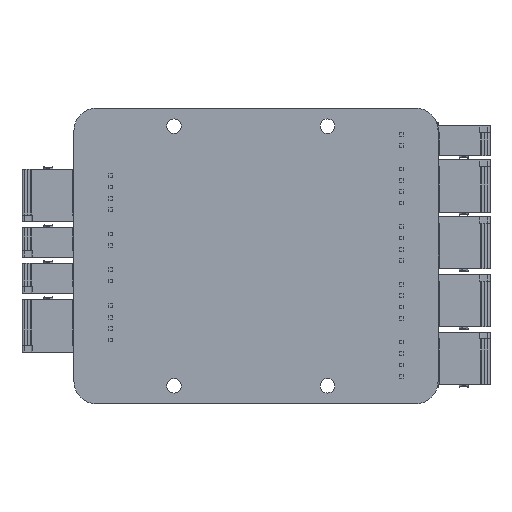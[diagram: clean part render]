
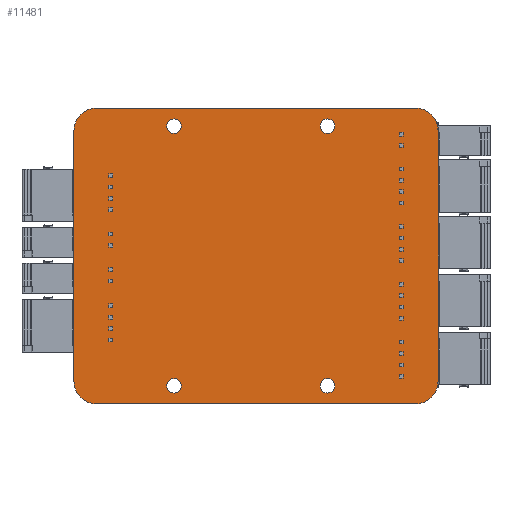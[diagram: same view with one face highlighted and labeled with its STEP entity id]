
A CAD part, front view. The second image highlights one B-rep face of the part: STEP entity #11481.
In plain terms, the highlighted planar face has unit normal (0, -1, 0).
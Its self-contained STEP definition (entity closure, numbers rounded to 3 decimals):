
#151=FACE_BOUND('',#1336,.T.);
#152=FACE_BOUND('',#1337,.T.);
#153=FACE_BOUND('',#1338,.T.);
#154=FACE_BOUND('',#1339,.T.);
#210=PLANE('',#12253);
#711=FACE_OUTER_BOUND('',#1335,.T.);
#1335=EDGE_LOOP('',(#7971,#7972,#7973,#7974,#7975,#7976,#7977,#7978));
#1336=EDGE_LOOP('',(#7979,#7980));
#1337=EDGE_LOOP('',(#7981,#7982));
#1338=EDGE_LOOP('',(#7983,#7984));
#1339=EDGE_LOOP('',(#7985,#7986));
#2017=LINE('',#16481,#3429);
#2020=LINE('',#16487,#3432);
#2021=LINE('',#16491,#3433);
#2022=LINE('',#16495,#3434);
#3429=VECTOR('',#13212,10.);
#3432=VECTOR('',#13217,10.);
#3433=VECTOR('',#13220,10.);
#3434=VECTOR('',#13223,10.);
#4835=CIRCLE('',#12234,1.6);
#4836=CIRCLE('',#12235,1.6);
#4838=CIRCLE('',#12238,1.6);
#4839=CIRCLE('',#12239,1.6);
#4841=CIRCLE('',#12242,1.6);
#4842=CIRCLE('',#12243,1.6);
#4844=CIRCLE('',#12246,1.6);
#4845=CIRCLE('',#12247,1.6);
#4848=CIRCLE('',#12251,5.);
#4849=CIRCLE('',#12254,5.);
#4850=CIRCLE('',#12255,5.);
#4851=CIRCLE('',#12256,5.);
#5099=VERTEX_POINT('',#16439);
#5100=VERTEX_POINT('',#16440);
#5102=VERTEX_POINT('',#16447);
#5103=VERTEX_POINT('',#16448);
#5105=VERTEX_POINT('',#16455);
#5106=VERTEX_POINT('',#16456);
#5108=VERTEX_POINT('',#16463);
#5109=VERTEX_POINT('',#16464);
#5113=VERTEX_POINT('',#16474);
#5114=VERTEX_POINT('',#16476);
#5115=VERTEX_POINT('',#16480);
#5117=VERTEX_POINT('',#16486);
#5118=VERTEX_POINT('',#16488);
#5119=VERTEX_POINT('',#16490);
#5120=VERTEX_POINT('',#16492);
#5121=VERTEX_POINT('',#16494);
#6235=EDGE_CURVE('',#5099,#5100,#4835,.T.);
#6236=EDGE_CURVE('',#5100,#5099,#4836,.T.);
#6239=EDGE_CURVE('',#5102,#5103,#4838,.T.);
#6240=EDGE_CURVE('',#5103,#5102,#4839,.T.);
#6243=EDGE_CURVE('',#5105,#5106,#4841,.T.);
#6244=EDGE_CURVE('',#5106,#5105,#4842,.T.);
#6247=EDGE_CURVE('',#5108,#5109,#4844,.T.);
#6248=EDGE_CURVE('',#5109,#5108,#4845,.T.);
#6253=EDGE_CURVE('',#5113,#5114,#4848,.T.);
#6255=EDGE_CURVE('',#5114,#5115,#2017,.T.);
#6258=EDGE_CURVE('',#5117,#5113,#2020,.T.);
#6259=EDGE_CURVE('',#5118,#5117,#4849,.T.);
#6260=EDGE_CURVE('',#5119,#5118,#2021,.T.);
#6261=EDGE_CURVE('',#5120,#5119,#4850,.T.);
#6262=EDGE_CURVE('',#5121,#5120,#2022,.T.);
#6263=EDGE_CURVE('',#5115,#5121,#4851,.T.);
#7971=ORIENTED_EDGE('',*,*,#6253,.F.);
#7972=ORIENTED_EDGE('',*,*,#6258,.F.);
#7973=ORIENTED_EDGE('',*,*,#6259,.F.);
#7974=ORIENTED_EDGE('',*,*,#6260,.F.);
#7975=ORIENTED_EDGE('',*,*,#6261,.F.);
#7976=ORIENTED_EDGE('',*,*,#6262,.F.);
#7977=ORIENTED_EDGE('',*,*,#6263,.F.);
#7978=ORIENTED_EDGE('',*,*,#6255,.F.);
#7979=ORIENTED_EDGE('',*,*,#6235,.T.);
#7980=ORIENTED_EDGE('',*,*,#6236,.T.);
#7981=ORIENTED_EDGE('',*,*,#6239,.T.);
#7982=ORIENTED_EDGE('',*,*,#6240,.T.);
#7983=ORIENTED_EDGE('',*,*,#6243,.T.);
#7984=ORIENTED_EDGE('',*,*,#6244,.T.);
#7985=ORIENTED_EDGE('',*,*,#6247,.T.);
#7986=ORIENTED_EDGE('',*,*,#6248,.T.);
#11481=ADVANCED_FACE('',(#711,#151,#152,#153,#154),#210,.T.);
#12234=AXIS2_PLACEMENT_3D('',#16441,#13168,#13169);
#12235=AXIS2_PLACEMENT_3D('',#16442,#13170,#13171);
#12238=AXIS2_PLACEMENT_3D('',#16449,#13177,#13178);
#12239=AXIS2_PLACEMENT_3D('',#16450,#13179,#13180);
#12242=AXIS2_PLACEMENT_3D('',#16457,#13186,#13187);
#12243=AXIS2_PLACEMENT_3D('',#16458,#13188,#13189);
#12246=AXIS2_PLACEMENT_3D('',#16465,#13195,#13196);
#12247=AXIS2_PLACEMENT_3D('',#16466,#13197,#13198);
#12251=AXIS2_PLACEMENT_3D('',#16477,#13207,#13208);
#12253=AXIS2_PLACEMENT_3D('',#16485,#13215,#13216);
#12254=AXIS2_PLACEMENT_3D('',#16489,#13218,#13219);
#12255=AXIS2_PLACEMENT_3D('',#16493,#13221,#13222);
#12256=AXIS2_PLACEMENT_3D('',#16496,#13224,#13225);
#13168=DIRECTION('center_axis',(0.,1.,0.));
#13169=DIRECTION('ref_axis',(1.,0.,0.));
#13170=DIRECTION('center_axis',(0.,1.,0.));
#13171=DIRECTION('ref_axis',(1.,0.,0.));
#13177=DIRECTION('center_axis',(0.,1.,0.));
#13178=DIRECTION('ref_axis',(1.,0.,0.));
#13179=DIRECTION('center_axis',(0.,1.,0.));
#13180=DIRECTION('ref_axis',(1.,0.,0.));
#13186=DIRECTION('center_axis',(0.,1.,0.));
#13187=DIRECTION('ref_axis',(1.,0.,0.));
#13188=DIRECTION('center_axis',(0.,1.,0.));
#13189=DIRECTION('ref_axis',(1.,0.,0.));
#13195=DIRECTION('center_axis',(0.,1.,0.));
#13196=DIRECTION('ref_axis',(1.,0.,0.));
#13197=DIRECTION('center_axis',(0.,1.,0.));
#13198=DIRECTION('ref_axis',(1.,0.,0.));
#13207=DIRECTION('center_axis',(0.,1.,0.));
#13208=DIRECTION('ref_axis',(-0.707,0.,-0.707));
#13212=DIRECTION('',(0.,0.,1.));
#13215=DIRECTION('center_axis',(0.,-1.,0.));
#13216=DIRECTION('ref_axis',(0.,0.,-1.));
#13217=DIRECTION('',(-1.,0.,0.));
#13218=DIRECTION('center_axis',(0.,1.,0.));
#13219=DIRECTION('ref_axis',(0.707,0.,-0.707));
#13220=DIRECTION('',(0.,0.,-1.));
#13221=DIRECTION('center_axis',(0.,1.,0.));
#13222=DIRECTION('ref_axis',(0.707,0.,0.707));
#13223=DIRECTION('',(1.,0.,0.));
#13224=DIRECTION('center_axis',(0.,1.,0.));
#13225=DIRECTION('ref_axis',(-0.707,0.,0.707));
#16439=CARTESIAN_POINT('',(17.3,0.,-28.5));
#16440=CARTESIAN_POINT('',(14.1,0.,-28.5));
#16441=CARTESIAN_POINT('Origin',(15.7,0.,-28.5));
#16442=CARTESIAN_POINT('Origin',(15.7,0.,-28.5));
#16447=CARTESIAN_POINT('',(-16.4,0.,-28.5));
#16448=CARTESIAN_POINT('',(-19.6,0.,-28.5));
#16449=CARTESIAN_POINT('Origin',(-18.,0.,-28.5));
#16450=CARTESIAN_POINT('Origin',(-18.,0.,-28.5));
#16455=CARTESIAN_POINT('',(-16.4,0.,28.5));
#16456=CARTESIAN_POINT('',(-19.6,0.,28.5));
#16457=CARTESIAN_POINT('Origin',(-18.,0.,28.5));
#16458=CARTESIAN_POINT('Origin',(-18.,0.,28.5));
#16463=CARTESIAN_POINT('',(17.3,0.,28.5));
#16464=CARTESIAN_POINT('',(14.1,0.,28.5));
#16465=CARTESIAN_POINT('Origin',(15.7,0.,28.5));
#16466=CARTESIAN_POINT('Origin',(15.7,0.,28.5));
#16474=CARTESIAN_POINT('',(-35.,0.,-32.5));
#16476=CARTESIAN_POINT('',(-40.,0.,-27.5));
#16477=CARTESIAN_POINT('Origin',(-35.,0.,-27.5));
#16480=CARTESIAN_POINT('',(-40.,0.,27.5));
#16481=CARTESIAN_POINT('',(-40.,0.,-32.5));
#16485=CARTESIAN_POINT('Origin',(0.,0.,0.));
#16486=CARTESIAN_POINT('',(35.,0.,-32.5));
#16487=CARTESIAN_POINT('',(40.,0.,-32.5));
#16488=CARTESIAN_POINT('',(40.,0.,-27.5));
#16489=CARTESIAN_POINT('Origin',(35.,0.,-27.5));
#16490=CARTESIAN_POINT('',(40.,0.,27.5));
#16491=CARTESIAN_POINT('',(40.,0.,32.5));
#16492=CARTESIAN_POINT('',(35.,0.,32.5));
#16493=CARTESIAN_POINT('Origin',(35.,0.,27.5));
#16494=CARTESIAN_POINT('',(-35.,0.,32.5));
#16495=CARTESIAN_POINT('',(-40.,0.,32.5));
#16496=CARTESIAN_POINT('Origin',(-35.,0.,27.5));
